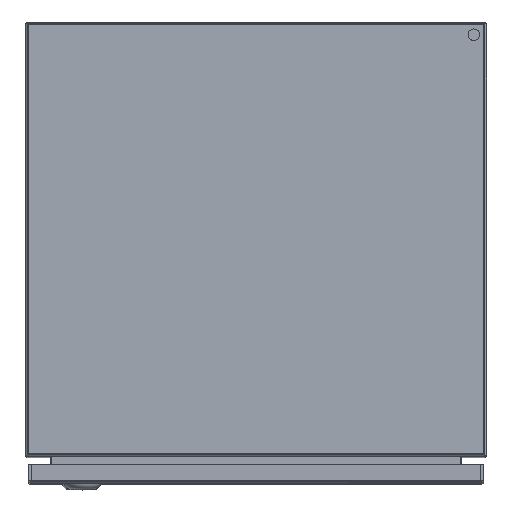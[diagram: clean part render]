
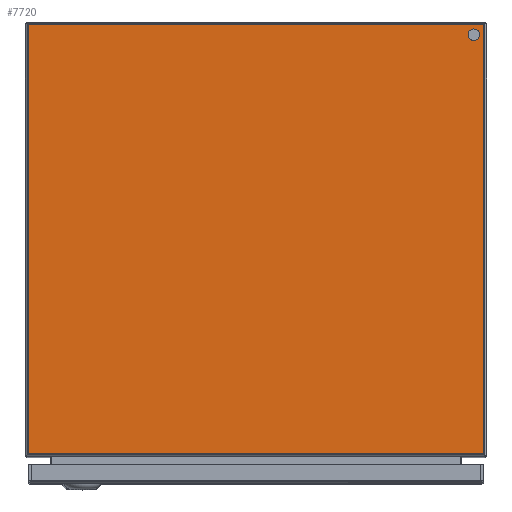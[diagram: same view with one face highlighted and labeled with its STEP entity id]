
A CAD part, top view. The second image highlights one B-rep face of the part: STEP entity #7720.
In plain terms, the highlighted planar face has unit normal (0, 0, 1).
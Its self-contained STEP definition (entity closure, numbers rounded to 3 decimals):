
#461=LINE('',#12235,#905);
#462=LINE('',#12238,#906);
#463=LINE('',#12240,#907);
#464=LINE('',#12242,#908);
#905=VECTOR('',#9567,1000.);
#906=VECTOR('',#9568,1000.);
#907=VECTOR('',#9569,1000.);
#908=VECTOR('',#9570,1000.);
#1410=ORIENTED_EDGE('',*,*,#3423,.F.);
#1411=ORIENTED_EDGE('',*,*,#3424,.T.);
#1412=ORIENTED_EDGE('',*,*,#3425,.F.);
#1413=ORIENTED_EDGE('',*,*,#3426,.F.);
#1414=ORIENTED_EDGE('',*,*,#3427,.T.);
#3423=EDGE_CURVE('',#4422,#4422,#5122,.T.);
#3424=EDGE_CURVE('',#4423,#4424,#461,.T.);
#3425=EDGE_CURVE('',#4425,#4424,#462,.T.);
#3426=EDGE_CURVE('',#4426,#4425,#463,.T.);
#3427=EDGE_CURVE('',#4426,#4423,#464,.T.);
#4422=VERTEX_POINT('',#12234);
#4423=VERTEX_POINT('',#12236);
#4424=VERTEX_POINT('',#12237);
#4425=VERTEX_POINT('',#12239);
#4426=VERTEX_POINT('',#12241);
#5122=CIRCLE('',#8337,5.);
#5665=EDGE_LOOP('',(#1410));
#5666=EDGE_LOOP('',(#1411,#1412,#1413,#1414));
#6603=FACE_BOUND('',#5665,.T.);
#6604=FACE_BOUND('',#5666,.T.);
#7510=PLANE('',#8336);
#7720=ADVANCED_FACE('',(#6603,#6604),#7510,.T.);
#8336=AXIS2_PLACEMENT_3D('',#12232,#9563,#9564);
#8337=AXIS2_PLACEMENT_3D('',#12233,#9565,#9566);
#9563=DIRECTION('',(0.,0.,1.));
#9564=DIRECTION('',(1.,0.,0.));
#9565=DIRECTION('',(0.,0.,1.));
#9566=DIRECTION('',(1.,0.,0.));
#9567=DIRECTION('',(-1.,0.,0.));
#9568=DIRECTION('',(0.,1.,0.));
#9569=DIRECTION('',(-1.,0.,0.));
#9570=DIRECTION('',(0.,1.,0.));
#12232=CARTESIAN_POINT('',(-197.5,-377.,600.));
#12233=CARTESIAN_POINT('',(189.,-11.,600.));
#12234=CARTESIAN_POINT('',(194.,-11.,600.));
#12235=CARTESIAN_POINT('',(400.,-2.5,600.));
#12236=CARTESIAN_POINT('',(197.5,-2.5,600.));
#12237=CARTESIAN_POINT('',(-197.5,-2.5,600.));
#12238=CARTESIAN_POINT('',(-197.5,-377.,600.));
#12239=CARTESIAN_POINT('',(-197.5,-374.5,600.));
#12240=CARTESIAN_POINT('',(400.,-374.5,600.));
#12241=CARTESIAN_POINT('',(197.5,-374.5,600.));
#12242=CARTESIAN_POINT('',(197.5,-377.,600.));
